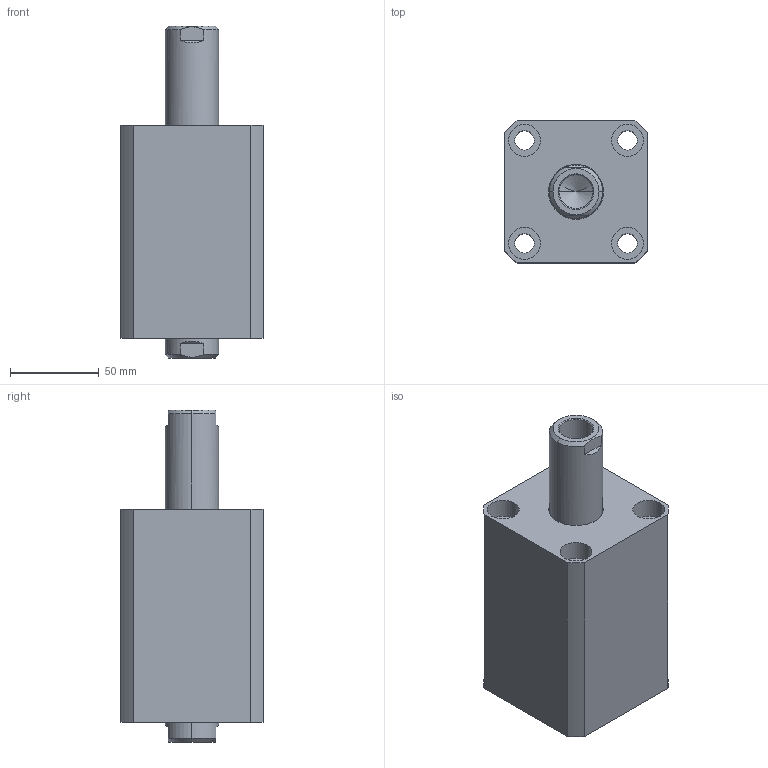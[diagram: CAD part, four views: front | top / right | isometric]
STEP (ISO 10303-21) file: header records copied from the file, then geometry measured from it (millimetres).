
FILE_DESCRIPTION (( 'STEP AP203' ), '1' );
FILE_NAME ('CHTB-SW50-45N.STEP', '2018-05-21T06:12:18', ( '' ), ( '' ), 'SwSTEP 2.0', 'SolidWorks 2015', '' );
FILE_SCHEMA (( 'CONFIG_CONTROL_DESIGN' ));
Length unit declared in the file: millimetre
Products named in the file (4): 掛极SW50-45N; ヶ裔; 活塞杆SW50-45N; CHTB-SW50-45N
Assembly tree (3 placements, depth 2):
  CHTB-SW50-45N
    掛极SW50-45N
    活塞杆SW50-45N
    ヶ裔
Bounding box: 80 x 80 x 187 mm (x, y, z)
Volume: 661991.2 mm3; surface area: 127631.3 mm2
Topology: 3 solids, 3 shells, 225 faces, 528 edges, 331 vertices
Faces by surface type: cylinder 118, plane 46, cone 33, torus 24, bspline 4
Entity records: 9706 total; most frequent: CARTESIAN_POINT 4243, DIRECTION 1104, ORIENTED_EDGE 1040, EDGE_CURVE 520, AXIS2_PLACEMENT_3D 462, VERTEX_POINT 331, EDGE_LOOP 271, CIRCLE 235
